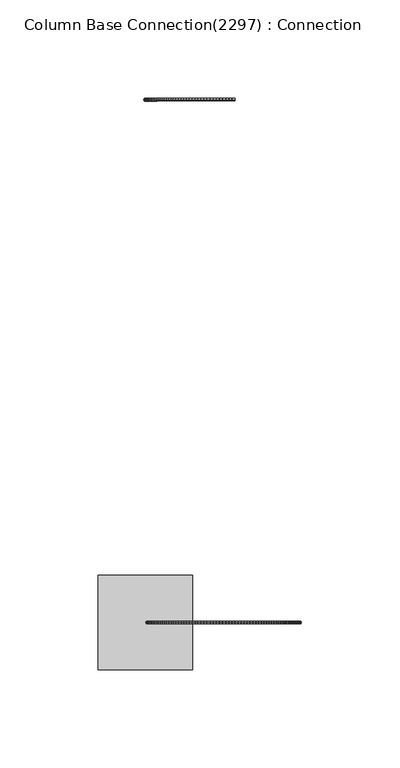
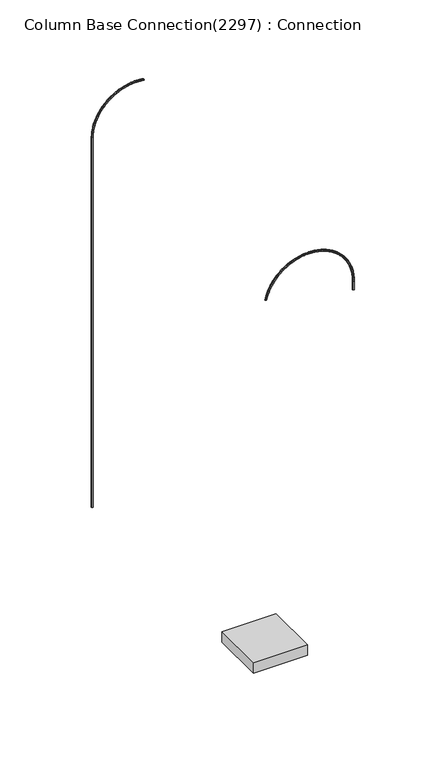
"""IFC4 building model written with IfcOpenShell, lengths in millimetres: fastener geometry, Column Base Connection(2297) : Connection."""

from ifc_helpers import new_model, si_unit, frame, origin, place, context, project, spatial, polyline, outline, extrude, source, transform, mapped, element, save


def column_base_connection_2297_connection_aaa6c23a(model_context):
    return source(origin(), model_context, "Body", "SweptSolid", [
        extrude(outline(polyline([(0.0, 0.0), (0.7999999, 0.0), (1.1999999, -0.6928203), (0.7999999, -1.3856406), (0.0, -1.3856406), (-0.4, -0.6928203), (0.0, 0.0)])), frame((184.7624412, 132.3071807, 308.5144738), z_axis=(-0.9903294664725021, 0.0, 0.13873553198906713), x_axis=(-0.13873553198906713, 0.0, -0.9903294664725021)), (0.0, 0.0, 1.0), 1.6),
        extrude(outline(polyline([(0.0, 0.0), (0.8000001, 0.0), (1.2, -0.6928203), (0.8000001, -1.3856406), (0.0, -1.3856406), (-0.3999999, -0.6928203), (0.0, 0.0)])), frame((183.1937945, 132.3071807, 308.7351845), z_axis=(-0.9950621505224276, 0.0, 0.09925379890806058), x_axis=(-0.09925379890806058, 0.0, -0.9950621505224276)), (0.0, 0.0, 1.0), 1.6),
        extrude(outline(polyline([(0.0, 0.0), (0.8000001, 0.0), (1.2, -0.6928203), (0.8000001, -1.3856406), (0.0, -1.3856406), (-0.4, -0.6928203), (0.0, 0.0)])), frame((181.6176134, 132.3071807, 308.8933567), z_axis=(-0.9982214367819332, 0.0, 0.05961512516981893), x_axis=(-0.05961512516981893, 0.0, -0.9982214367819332)), (0.0, 0.0, 1.0), 1.6),
        extrude(outline(polyline([(0.0, 0.0), (0.8, 0.0), (1.2, -0.6928203), (0.8, -1.3856406), (0.0, -1.3856406), (-0.4, -0.6928203), (0.0, 0.0)])), frame((180.03639, 132.3071807, 308.9887404), z_axis=(-0.9998023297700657, 0.0, 0.019882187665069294), x_axis=(-0.019882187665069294, 0.0, -0.9998023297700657)), (0.0, 0.0, 1.0), 1.6),
        extrude(outline(polyline([(0.0, 0.0), (0.4000001, -0.6928203), (0.0, -1.3856406), (-0.7999999, -1.3856406), (-1.1999999, -0.6928203), (-0.7999999, 0.0), (0.0, 0.0)])), frame((176.8529409, 132.3071807, 308.9893732), z_axis=(0.9998023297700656, 0.0, 0.019882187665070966), x_axis=(-0.019882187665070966, 0.0, 0.9998023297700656)), (0.0, 0.0, 1.0), 1.6),
        extrude(outline(polyline([(0.0, 0.0), (0.3999999, -0.6928203), (0.0, -1.3856406), (-0.8000001, -1.3856406), (-1.2000001, -0.6928203), (-0.8000001, 0.0), (0.0, 0.0)])), frame((175.2716672, 132.3071807, 308.8952543), z_axis=(0.9982214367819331, 0.0, 0.0596151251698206), x_axis=(-0.0596151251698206, 0.0, 0.9982214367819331)), (0.0, 0.0, 1.0), 1.6),
        extrude(outline(polyline([(0.0, 0.0), (0.3999999, -0.6928203), (0.0, -1.3856406), (-0.8000001, -1.3856406), (-1.2, -0.6928203), (-0.8000001, 0.0), (0.0, 0.0)])), frame((173.6953855, 132.3071807, 308.7383438), z_axis=(0.9950621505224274, 0.0, 0.09925379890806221), x_axis=(-0.09925379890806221, 0.0, 0.9950621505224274)), (0.0, 0.0, 1.0), 1.6),
        extrude(outline(polyline([(0.0, 0.0), (0.4, -0.6928203), (0.0, -1.3856406), (-0.7999999, -1.3856406), (-1.1999999, -0.6928203), (-0.7999999, 0.0), (0.0, 0.0)])), frame((172.1265882, 132.3071807, 308.5188898), z_axis=(0.9903294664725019, 0.0, 0.13873553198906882), x_axis=(-0.13873553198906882, 0.0, 0.9903294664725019)), (0.0, 0.0, 1.0), 1.6),
        extrude(outline(polyline([(0.0, 0.0), (0.4, -0.6928203), (0.0, -1.3856406), (-0.8, -1.3856406), (-1.2, -0.6928203), (-0.8, 0.0), (0.0, 0.0)])), frame((170.5677559, 132.3071807, 308.2372395), z_axis=(0.9840308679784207, 0.0, 0.17799789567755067), x_axis=(-0.17799789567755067, 0.0, 0.9840308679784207)), (0.0, 0.0, 1.0), 1.6),
        extrude(outline(polyline([(0.0, 0.0), (0.4, -0.6928203), (0.0, -1.3856406), (-0.8, -1.3856406), (-1.2, -0.6928203), (-0.8, 0.0), (0.0, 0.0)])), frame((169.0213535, 132.3071807, 307.8938381), z_axis=(0.9761763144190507, 0.0, 0.2169788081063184), x_axis=(-0.2169788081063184, 0.0, 0.9761763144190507)), (0.0, 0.0, 1.0), 1.6),
        extrude(outline(polyline([(0.0, 0.0), (0.4, -0.6928203), (0.0, -1.3856406), (-0.7999999, -1.3856406), (-1.1999999, -0.6928203), (-0.7999999, 0.0), (0.0, 0.0)])), frame((167.4898262, 132.3071807, 307.4892286), z_axis=(0.9667782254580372, 0.0, 0.255616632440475), x_axis=(-0.255616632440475, 0.0, 0.9667782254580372)), (0.0, 0.0, 1.0), 1.6),
        extrude(outline(polyline([(0.0, 0.0), (0.3999999, -0.6928203), (0.0, -1.3856406), (-0.8, -1.3856406), (-1.2, -0.6928203), (-0.8, 0.0), (0.0, 0.0)])), frame((165.9755955, 132.3071807, 307.0240509), z_axis=(0.9558514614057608, 0.0, 0.2938502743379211), x_axis=(-0.2938502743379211, 0.0, 0.9558514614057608)), (0.0, 0.0, 1.0), 1.6),
        extrude(outline(polyline([(0.0, 0.0), (0.4, -0.6928203), (0.0, -1.3856406), (-0.8, -1.3856406), (-1.2, -0.6928203), (-0.8, 0.0), (0.0, 0.0)])), frame((164.4810558, 132.3071807, 306.4990403), z_axis=(0.9434132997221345, 0.0, 0.33161927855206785), x_axis=(-0.33161927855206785, 0.0, 0.9434132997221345)), (0.0, 0.0, 1.0), 1.6),
        extrude(outline(polyline([(0.0, 0.0), (0.4, -0.6928203), (0.0, -1.3856406), (-0.8000001, -1.3856406), (-1.2, -0.6928203), (-0.8000001, 0.0), (0.0, 0.0)])), frame((163.0085703, 132.3071807, 305.9150272), z_axis=(0.929483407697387, 0.0, 0.36886392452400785), x_axis=(-0.36886392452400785, 0.0, 0.929483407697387)), (0.0, 0.0, 1.0), 1.6),
        extrude(outline(polyline([(0.0, 0.0), (0.4, -0.6928203), (0.0, -1.3856406), (-0.7999999, -1.3856406), (-1.2, -0.6928203), (-0.7999999, 0.0), (0.0, 0.0)])), frame((161.5604673, 132.3071807, 305.2729348), z_axis=(0.9140838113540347, 0.0, 0.4055253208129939), x_axis=(-0.4055253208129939, 0.0, 0.9140838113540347)), (0.0, 0.0, 1.0), 1.6),
        extrude(outline(polyline([(0.0, 0.0), (0.4, -0.6928203), (0.0, -1.3856406), (-0.8, -1.3856406), (-1.2, -0.6928203), (-0.8, 0.0), (0.0, 0.0)])), frame((160.1390365, 132.3071807, 304.5737786), z_axis=(0.8972388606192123, 0.0, 0.4415454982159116), x_axis=(-0.4415454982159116, 0.0, 0.8972388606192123)), (0.0, 0.0, 1.0), 1.6),
        extrude(outline(polyline([(0.0, 0.0), (0.4, -0.6928203), (0.0, -1.3856406), (-0.8, -1.3856406), (-1.2, -0.6928203), (-0.8, 0.0), (0.0, 0.0)])), frame((158.7465255, 132.3071807, 303.818664), z_axis=(0.8789751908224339, 0.0, 0.4768675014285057), x_axis=(-0.4768675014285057, 0.0, 0.8789751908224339)), (0.0, 0.0, 1.0), 1.6),
        extrude(outline(polyline([(0.0, 0.0), (0.4, -0.6928203), (0.0, -1.3856406), (-0.8, -1.3856406), (-1.2, -0.6928203), (-0.8, 0.0), (0.0, 0.0)])), frame((157.3851361, 132.3071807, 303.008785), z_axis=(0.8593216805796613, 0.0, 0.5114354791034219), x_axis=(-0.5114354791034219, 0.0, 0.8593216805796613)), (0.0, 0.0, 1.0), 1.6),
        extrude(outline(polyline([(0.0, 0.0), (0.4, -0.6928203), (0.0, -1.3856406), (-0.8, -1.3856406), (-1.2, -0.6928203), (-0.8, 0.0), (0.0, 0.0)])), frame((156.0570211, 132.3071807, 302.1454222), z_axis=(0.8383094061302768, 0.0, 0.5451947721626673), x_axis=(-0.5451947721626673, 0.0, 0.8383094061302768)), (0.0, 0.0, 1.0), 1.6),
        extrude(outline(polyline([(0.0, 0.0), (0.4, -0.6928203), (0.0, -1.3856406), (-0.8, -1.3856406), (-1.2, -0.6928203), (-0.8, 0.0), (0.0, 0.0)])), frame((154.7642803, 132.3071807, 301.2299408), z_axis=(0.8159715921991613, 0.0, 0.5780920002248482), x_axis=(-0.5780920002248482, 0.0, 0.8159715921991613)), (0.0, 0.0, 1.0), 1.6),
        extrude(outline(polyline([(0.0, 0.0), (0.4, -0.6928203), (0.0, -1.3856406), (-0.8, -1.3856406), (-1.2, -0.6928203), (-0.8, 0.0), (0.0, 0.0)])), frame((153.508958, 132.3071807, 300.2637883), z_axis=(0.7923435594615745, 0.0, 0.6100751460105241), x_axis=(-0.6100751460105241, 0.0, 0.7923435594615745)), (0.0, 0.0, 1.0), 1.6),
        extrude(outline(polyline([(0.0, 0.0), (0.4, -0.6928203), (0.0, -1.3856406), (-0.8, -1.3856406), (-1.2, -0.6928203), (-0.8, 0.0), (0.0, 0.0)])), frame((152.2930389, 132.3071807, 299.2484923), z_axis=(0.7674626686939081, 0.0, 0.6410936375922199), x_axis=(-0.6410936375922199, 0.0, 0.7674626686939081)), (0.0, 0.0, 1.0), 1.6),
        extrude(outline(polyline([(0.0, 0.0), (0.4, -0.6928203), (0.0, -1.3856406), (-0.8, -1.3856406), (-1.2, -0.6928203), (-0.8, 0.0), (0.0, 0.0)])), frame((151.1184458, 132.3071807, 298.1856584), z_axis=(0.7413682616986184, 0.0, 0.6710984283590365), x_axis=(-0.6710984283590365, 0.0, 0.7413682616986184)), (0.0, 0.0, 1.0), 1.6),
        extrude(outline(polyline([(0.0, 0.0), (0.4, -0.6928203), (0.0, -1.3856406), (-0.8, -1.3856406), (-1.2, -0.6928203), (-0.8, 0.0), (0.0, 0.0)])), frame((149.9870359, 132.3071807, 297.076967), z_axis=(0.7141015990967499, 0.0, 0.7000420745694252), x_axis=(-0.7000420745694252, 0.0, 0.7141015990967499)), (0.0, 0.0, 1.0), 1.6),
        extrude(outline(polyline([(0.0, 0.0), (0.4, -0.6928203), (0.0, -1.3856406), (-0.8000001, -1.3856406), (-1.2000001, -0.6928203), (-0.8000001, 0.0), (0.0, 0.0)])), frame((148.9005982, 132.3071807, 295.9241713), z_axis=(0.6857057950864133, 0.0, 0.727878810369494), x_axis=(-0.727878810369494, 0.0, 0.6857057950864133)), (0.0, 0.0, 1.0), 1.6),
        extrude(outline(polyline([(0.0, 0.0), (0.4, -0.6928203), (0.0, -1.3856406), (-0.8, -1.3856406), (-1.2, -0.6928203), (-0.8, 0.0), (0.0, 0.0)])), frame((147.8608506, 132.3071807, 294.7290939), z_axis=(0.6562257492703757, 0.0, 0.75456462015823), x_axis=(-0.75456462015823, 0.0, 0.6562257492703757)), (0.0, 0.0, 1.0), 1.6),
        extrude(outline(polyline([(0.0, 0.0), (0.4, -0.6928203), (0.0, -1.3856406), (-0.8000001, -1.3856406), (-1.2, -0.6928203), (-0.8000001, 0.0), (0.0, 0.0)])), frame((146.8694371, 132.3071807, 293.4936247), z_axis=(0.6257080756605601, 0.0, 0.780057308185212), x_axis=(-0.780057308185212, 0.0, 0.6257080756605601)), (0.0, 0.0, 1.0), 1.6),
        extrude(outline(polyline([(0.0, 0.0), (0.4, -0.6928203), (0.0, -1.3856406), (-0.8000001, -1.3856406), (-1.2000001, -0.6928203), (-0.8000001, 0.0), (0.0, 0.0)])), frame((145.9279254, 132.3071807, 292.2197171), z_axis=(0.5942010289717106, 0.0, 0.8043165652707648), x_axis=(-0.8043165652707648, 0.0, 0.5942010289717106)), (0.0, 0.0, 1.0), 1.6),
        extrude(outline(polyline([(0.0, 0.0), (0.3999999, -0.6928203), (0.0, -1.3856406), (-0.8, -1.3856406), (-1.2, -0.6928203), (-0.8, 0.0), (0.0, 0.0)])), frame((145.0378042, 132.3071807, 290.9093854), z_axis=(0.561754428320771, 0.0, 0.8273040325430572), x_axis=(-0.8273040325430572, 0.0, 0.561754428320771)), (0.0, 0.0, 1.0), 1.6),
        extrude(outline(polyline([(0.0, 0.0), (0.4, -0.6928203), (0.0, -1.3856406), (-0.7999999, -1.3856406), (-1.2, -0.6928203), (-0.7999999, 0.0), (0.0, 0.0)])), frame((144.200481, 132.3071807, 289.5647015), z_axis=(0.5284195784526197, 0.0, 0.8489833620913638), x_axis=(-0.8489833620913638, 0.0, 0.5284195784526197)), (0.0, 0.0, 1.0), 1.6),
        extrude(outline(polyline([(0.0, 0.0), (0.4, -0.6928203), (0.0, -1.3856406), (-0.8, -1.3856406), (-1.2, -0.6928203), (-0.8, 0.0), (0.0, 0.0)])), frame((143.4172796, 132.3071807, 288.1877917), z_axis=(0.49424918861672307, 0.0, 0.8693202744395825), x_axis=(-0.8693202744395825, 0.0, 0.49424918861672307)), (0.0, 0.0, 1.0), 1.6),
        extrude(outline(polyline([(0.0, 0.0), (0.4, -0.6928203), (0.0, -1.3856406), (-0.8, -1.3856406), (-1.2, -0.6928203), (-0.8, 0.0), (0.0, 0.0)])), frame((142.6894386, 132.3071807, 286.7808331), z_axis=(0.459297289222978, 0.0, 0.8882826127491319), x_axis=(-0.8882826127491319, 0.0, 0.459297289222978)), (0.0, 0.0, 1.0), 1.6),
        extrude(outline(polyline([(0.0, 0.0), (0.4, -0.6928203), (0.0, -1.3856406), (-0.8000001, -1.3856406), (-1.2, -0.6928203), (-0.8000001, 0.0), (0.0, 0.0)])), frame((142.0181088, 132.3071807, 285.3460505), z_axis=(0.4236191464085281, 0.0, 0.9058403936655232), x_axis=(-0.9058403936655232, 0.0, 0.4236191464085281)), (0.0, 0.0, 1.0), 1.6),
        extrude(outline(polyline([(0.0, 0.0), (0.4, -0.6928203), (0.0, -1.3856406), (-0.8, -1.3856406), (-1.2, -0.6928203), (-0.8, 0.0), (0.0, 0.0)])), frame((141.4043518, 132.3071807, 283.8857125), z_axis=(0.3872711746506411, 0.0, 0.9219658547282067), x_axis=(-0.9219658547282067, 0.0, 0.3872711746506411)), (0.0, 0.0, 1.0), 1.6),
        extrude(outline(polyline([(0.0, 0.0), (0.4, -0.6928203), (0.0, -1.3856406), (-0.8, -1.3856406), (-1.2, -0.6928203), (-0.8, 0.0), (0.0, 0.0)])), frame((140.8491379, 132.3071807, 282.4021281), z_axis=(0.3503108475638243, 0.0, 0.9366334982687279), x_axis=(-0.9366334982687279, 0.0, 0.3503108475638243)), (0.0, 0.0, 1.0), 1.6),
        extrude(outline(polyline([(0.0, 0.0), (0.4, -0.6928203), (0.0, -1.3856406), (-0.8, -1.3856406), (-1.2, -0.6928203), (-0.8, 0.0), (0.0, 0.0)])), frame((140.3533451, 132.3071807, 280.8976434), z_axis=(0.3127966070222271, 0.0, 0.9498201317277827), x_axis=(-0.9498201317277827, 0.0, 0.3127966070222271)), (0.0, 0.0, 1.0), 1.6),
        extrude(outline(polyline([(0.0, 0.0), (0.3999999, -0.6928203), (0.0, -1.3856406), (-0.8000001, -1.3856406), (-1.2, -0.6928203), (-0.8000001, 0.0), (0.0, 0.0)])), frame((139.9177573, 132.3071807, 279.374637), z_axis=(0.2747877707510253, 0.0, 0.9615049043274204), x_axis=(-0.9615049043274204, 0.0, 0.2747877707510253)), (0.0, 0.0, 1.0), 1.6),
        extrude(outline(polyline([(0.0, 0.0), (0.3999999, -0.6928203), (0.0, -1.3856406), (-0.8, -1.3856406), (-1.2, -0.6928203), (-0.8, 0.0), (0.0, 0.0)])), frame((139.5430634, 132.3071807, 277.8355174), z_axis=(0.23634443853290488, 0.0, 0.9716693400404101), x_axis=(-0.9716693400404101, 0.0, 0.23634443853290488)), (0.0, 0.0, 1.0), 1.6),
        extrude(outline(polyline([(0.0, 0.0), (0.4, -0.6928203), (0.0, -1.3856406), (-0.8, -1.3856406), (-1.2000001, -0.6928203), (-0.8, 0.0), (0.0, 0.0)])), frame((139.2298557, 132.3071807, 276.282718), z_axis=(0.1975273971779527, 0.0, 0.9802973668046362), x_axis=(-0.9802973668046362, 0.0, 0.1975273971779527)), (0.0, 0.0, 1.0), 1.6),
        extrude(outline(polyline([(0.0, 0.0), (0.4000001, -0.6928203), (0.0, -1.3856406), (-0.7999999, -1.3856406), (-1.2, -0.6928203), (-0.7999999, 0.0), (0.0, 0.0)])), frame((138.9786296, 132.3071807, 274.7186942), z_axis=(0.158398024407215, 0.0, 0.9873753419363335), x_axis=(-0.9873753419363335, 0.0, 0.158398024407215)), (0.0, 0.0, 1.0), 1.6),
        extrude(outline(polyline([(0.0, 0.0), (0.4000001, -0.6928203), (0.0, -1.3856406), (-0.7999999, -1.3856406), (-1.2, -0.6928203), (-0.7999999, 0.0), (0.0, 0.0)])), frame((138.7897822, 132.3071807, 273.1459191), z_axis=(0.1190181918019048, 0.0, 0.9928920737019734), x_axis=(-0.9928920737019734, 0.0, 0.1190181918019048)), (0.0, 0.0, 1.0), 1.6),
        extrude(outline(polyline([(0.0, 0.0), (0.4, -0.6928203), (0.0, -1.3856406), (-0.8, -1.3856406), (-1.2, -0.6928203), (-0.8, 0.0), (0.0, 0.0)])), frame((138.6636121, 132.3071807, 271.5668795), z_axis=(0.07945016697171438, 0.0, 0.9968388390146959), x_axis=(-0.9968388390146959, 0.0, 0.07945016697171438)), (0.0, 0.0, 1.0), 1.6),
        extrude(outline(polyline([(0.0, 0.0), (0.3999999, -0.6928203), (0.0, -1.3856406), (-0.8000001, -1.3856406), (-1.2, -0.6928203), (-0.8000001, 0.0), (0.0, 0.0)])), frame((138.6003189, 132.3071807, 269.9840722), z_axis=(0.03975651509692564, 0.0, 0.999209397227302), x_axis=(-0.999209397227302, 0.0, 0.03975651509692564)), (0.0, 0.0, 1.0), 1.6),
        extrude(outline(polyline([(138.6000027, 132.3071807), (138.2000027, 133.000001), (138.6000027, 133.6928213), (139.4000027, 133.6928213), (139.8000027, 133.000001), (139.4000027, 132.3071807), (138.6000027, 132.3071807)])), frame((0.0, 0.0, -78.0), z_axis=(0.0, 0.0, 1.0), x_axis=(1.0, 0.0, 0.0)), (0.0, 0.0, 1.0), 348.0),
        extrude(outline(polyline([(115.0000027, -109.000001), (163.0000027, -109.000001), (163.0000027, -157.000001), (115.0000027, -157.000001), (115.0000027, -109.000001)])), frame((0.0, 0.0, -50.0), z_axis=(0.0, 0.0, 1.0), x_axis=(1.0, 0.0, 0.0)), (0.0, 0.0, 1.0), 10.0),
        extrude(outline(polyline([(218.2575041, -133.6928213), (217.4575041, -133.6928213), (217.0575041, -133.000001), (217.4575041, -132.3071807), (218.2575041, -132.3071807), (218.6575041, -133.000001), (218.2575041, -133.6928213)])), frame((0.0, 0.0, 260.4), z_axis=(0.0, 0.0, 1.0), x_axis=(1.0, 0.0, 0.0)), (0.0, 0.0, 1.0), 8.0),
        extrude(outline(polyline([(218.2575041, -133.6928213), (217.4575041, -133.6928213), (217.0575041, -133.000001), (217.4575041, -132.3071807), (218.2575041, -132.3071807), (218.6575041, -133.000001), (218.2575041, -133.6928213)])), frame((0.0, 0.0, 268.3681696), z_axis=(0.0, 0.0, 1.0), x_axis=(1.0, 0.0, 0.0)), (0.0, 0.0, 1.0), 1.6),
        extrude(outline(polyline([(0.0, 0.0), (0.8000001, 0.0), (1.2, -0.6928203), (0.8000001, -1.3856406), (0.0, -1.3856406), (-0.3999999, -0.6928203), (0.0, 0.0)])), frame((218.2584534, -133.6928213, 269.952267), z_axis=(-0.03975651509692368, 0.0, 0.999209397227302), x_axis=(-0.999209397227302, 0.0, -0.03975651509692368)), (0.0, 0.0, 1.0), 1.6),
        extrude(outline(polyline([(0.0, 0.0), (0.7999999, 0.0), (1.2, -0.6928203), (0.7999999, -1.3856406), (0.0, -1.3856406), (-0.4000001, -0.6928203), (0.0, 0.0)])), frame((218.1964236, -133.6928213, 271.5351498), z_axis=(-0.07945016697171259, 0.0, 0.996838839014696), x_axis=(-0.996838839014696, 0.0, -0.07945016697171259)), (0.0, 0.0, 1.0), 1.6),
        extrude(outline(polyline([(0.0, 0.0), (0.8, 0.0), (1.2, -0.6928203), (0.8, -1.3856406), (0.0, -1.3856406), (-0.4, -0.6928203), (0.0, 0.0)])), frame((218.0715131, -133.6928213, 273.114315), z_axis=(-0.11901819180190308, 0.0, 0.9928920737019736), x_axis=(-0.9928920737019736, 0.0, -0.11901819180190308)), (0.0, 0.0, 1.0), 1.6),
        extrude(outline(polyline([(0.0, 0.0), (0.8, 0.0), (1.2, -0.6928203), (0.8, -1.3856406), (0.0, -1.3856406), (-0.4000001, -0.6928203), (0.0, 0.0)])), frame((217.8839191, -133.6928213, 274.6872657), z_axis=(-0.15839802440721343, 0.0, 0.9873753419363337), x_axis=(-0.9873753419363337, 0.0, -0.15839802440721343)), (0.0, 0.0, 1.0), 1.6),
        extrude(outline(polyline([(0.0, 0.0), (0.8, 0.0), (1.2000001, -0.6928203), (0.8, -1.3856406), (0.0, -1.3856406), (-0.3999999, -0.6928203), (0.0, 0.0)])), frame((217.6339385, -133.6928213, 276.2515148), z_axis=(-0.19752739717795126, 0.0, 0.9802973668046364), x_axis=(-0.9802973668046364, 0.0, -0.19752739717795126)), (0.0, 0.0, 1.0), 1.6),
        extrude(outline(polyline([(0.0, 0.0), (0.8, 0.0), (1.2000001, -0.6928203), (0.8, -1.3856406), (0.0, -1.3856406), (-0.3999999, -0.6928203), (0.0, 0.0)])), frame((217.3219664, -133.6928213, 277.8045888), z_axis=(-0.23634443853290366, 0.0, 0.9716693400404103), x_axis=(-0.9716693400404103, 0.0, -0.23634443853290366)), (0.0, 0.0, 1.0), 1.6),
        extrude(outline(polyline([(0.0, 0.0), (0.8, 0.0), (1.2, -0.6928203), (0.8, -1.3856406), (0.0, -1.3856406), (-0.3999999, -0.6928203), (0.0, 0.0)])), frame((216.9484961, -133.6928213, 279.344032), z_axis=(-0.2747877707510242, 0.0, 0.9615049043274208), x_axis=(-0.9615049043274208, 0.0, -0.2747877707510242)), (0.0, 0.0, 1.0), 1.6),
        extrude(outline(polyline([(0.0, 0.0), (0.8, 0.0), (1.2, -0.6928203), (0.8, -1.3856406), (0.0, -1.3856406), (-0.4, -0.6928203), (0.0, 0.0)])), frame((216.5141182, -133.6928213, 280.8674102), z_axis=(-0.31279660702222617, 0.0, 0.949820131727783), x_axis=(-0.949820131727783, 0.0, -0.31279660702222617)), (0.0, 0.0, 1.0), 1.6),
        extrude(outline(polyline([(0.0, 0.0), (0.8, 0.0), (1.2, -0.6928203), (0.8, -1.3856406), (0.0, -1.3856406), (-0.4, -0.6928203), (0.0, 0.0)])), frame((216.0195195, -133.6928213, 282.3723147), z_axis=(-0.3503108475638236, 0.0, 0.9366334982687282), x_axis=(-0.9366334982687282, 0.0, -0.3503108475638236)), (0.0, 0.0, 1.0), 1.6),
        extrude(outline(polyline([(0.0, 0.0), (0.7999999, 0.0), (1.2, -0.6928203), (0.7999999, -1.3856406), (0.0, -1.3856406), (-0.4000001, -0.6928203), (0.0, 0.0)])), frame((215.465482, -133.6928213, 283.8563659), z_axis=(-0.38727117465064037, 0.0, 0.921965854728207), x_axis=(-0.921965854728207, 0.0, -0.38727117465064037)), (0.0, 0.0, 1.0), 1.6),
        extrude(outline(polyline([(0.0, 0.0), (0.8, 0.0), (1.1999999, -0.6928203), (0.8, -1.3856406), (0.0, -1.3856406), (-0.4, -0.6928203), (0.0, 0.0)])), frame((214.8528819, -133.6928213, 285.3172173), z_axis=(-0.4236191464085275, 0.0, 0.9058403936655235), x_axis=(-0.9058403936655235, 0.0, -0.4236191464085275)), (0.0, 0.0, 1.0), 1.6),
        extrude(outline(polyline([(0.0, 0.0), (0.8, 0.0), (1.2, -0.6928203), (0.8, -1.3856406), (0.0, -1.3856406), (-0.4, -0.6928203), (0.0, 0.0)])), frame((214.1826878, -133.6928213, 286.7525588), z_axis=(-0.45929728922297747, 0.0, 0.8882826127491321), x_axis=(-0.8882826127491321, 0.0, -0.45929728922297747)), (0.0, 0.0, 1.0), 1.6),
        extrude(outline(polyline([(0.0, 0.0), (0.8, 0.0), (1.2, -0.6928203), (0.8, -1.3856406), (0.0, -1.3856406), (-0.4, -0.6928203), (0.0, 0.0)])), frame((213.4559593, -133.6928213, 288.1601209), z_axis=(-0.4942491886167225, 0.0, 0.8693202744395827), x_axis=(-0.8693202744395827, 0.0, -0.4942491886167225)), (0.0, 0.0, 1.0), 1.6),
        extrude(outline(polyline([(0.0, 0.0), (0.8, 0.0), (1.2000001, -0.6928203), (0.8, -1.3856406), (0.0, -1.3856406), (-0.3999999, -0.6928203), (0.0, 0.0)])), frame((212.6738457, -133.6928213, 289.5376781), z_axis=(-0.5284195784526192, 0.0, 0.848983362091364), x_axis=(-0.848983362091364, 0.0, -0.5284195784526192)), (0.0, 0.0, 1.0), 1.6),
        extrude(outline(polyline([(0.0, 0.0), (0.8000001, 0.0), (1.2, -0.6928203), (0.8000001, -1.3856406), (0.0, -1.3856406), (-0.3999999, -0.6928203), (0.0, 0.0)])), frame((211.8375835, -133.6928213, 290.883052), z_axis=(-0.5617544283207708, 0.0, 0.8273040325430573), x_axis=(-0.8273040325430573, 0.0, -0.5617544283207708)), (0.0, 0.0, 1.0), 1.6),
        extrude(outline(polyline([(0.0, 0.0), (0.8, 0.0), (1.2, -0.6928203), (0.8, -1.3856406), (0.0, -1.3856406), (-0.4000001, -0.6928203), (0.0, 0.0)])), frame((210.948495, -133.6928213, 292.1941154), z_axis=(-0.5942010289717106, 0.0, 0.8043165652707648), x_axis=(-0.8043165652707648, 0.0, -0.5942010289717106)), (0.0, 0.0, 1.0), 1.6),
        extrude(outline(polyline([(0.0, 0.0), (0.8, 0.0), (1.2, -0.6928203), (0.8, -1.3856406), (0.0, -1.3856406), (-0.4, -0.6928203), (0.0, 0.0)])), frame((210.0079862, -133.6928213, 293.4687952), z_axis=(-0.6257080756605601, 0.0, 0.780057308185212), x_axis=(-0.780057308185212, 0.0, -0.6257080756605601)), (0.0, 0.0, 1.0), 1.6),
        extrude(outline(polyline([(0.0, 0.0), (0.8, 0.0), (1.2, -0.6928203), (0.8, -1.3856406), (0.0, -1.3856406), (-0.4, -0.6928203), (0.0, 0.0)])), frame((209.0175441, -133.6928213, 294.7050759), z_axis=(-0.6562257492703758, 0.0, 0.75456462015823), x_axis=(-0.75456462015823, 0.0, -0.6562257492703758)), (0.0, 0.0, 1.0), 1.6),
        extrude(outline(polyline([(0.0, 0.0), (0.8, 0.0), (1.2, -0.6928203), (0.8, -1.3856406), (0.0, -1.3856406), (-0.4, -0.6928203), (0.0, 0.0)])), frame((207.9787349, -133.6928213, 295.9010026), z_axis=(-0.6857057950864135, 0.0, 0.7278788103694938), x_axis=(-0.7278788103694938, 0.0, -0.6857057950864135)), (0.0, 0.0, 1.0), 1.6),
        extrude(outline(polyline([(0.0, 0.0), (0.8, 0.0), (1.2, -0.6928203), (0.8, -1.3856406), (0.0, -1.3856406), (-0.4000001, -0.6928203), (0.0, 0.0)])), frame((206.893201, -133.6928213, 297.0546844), z_axis=(-0.7141015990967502, 0.0, 0.7000420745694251), x_axis=(-0.7000420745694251, 0.0, -0.7141015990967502)), (0.0, 0.0, 1.0), 1.6),
        extrude(outline(polyline([(0.0, 0.0), (0.8, 0.0), (1.2, -0.6928203), (0.8, -1.3856406), (0.0, -1.3856406), (-0.4, -0.6928203), (0.0, 0.0)])), frame((205.762659, -133.6928213, 298.1642971), z_axis=(-0.7413682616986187, 0.0, 0.6710984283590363), x_axis=(-0.6710984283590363, 0.0, -0.7413682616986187)), (0.0, 0.0, 1.0), 1.6),
        extrude(outline(polyline([(0.0, 0.0), (0.8, 0.0), (1.2, -0.6928203), (0.8, -1.3856406), (0.0, -1.3856406), (-0.4000001, -0.6928203), (0.0, 0.0)])), frame((204.5888965, -133.6928213, 299.2280861), z_axis=(-0.7674626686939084, 0.0, 0.6410936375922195), x_axis=(-0.6410936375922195, 0.0, -0.7674626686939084)), (0.0, 0.0, 1.0), 1.6),
        extrude(outline(polyline([(0.0, 0.0), (0.8, 0.0), (1.2, -0.6928203), (0.8, -1.3856406), (0.0, -1.3856406), (-0.4, -0.6928203), (0.0, 0.0)])), frame((203.3737695, -133.6928213, 300.2443693), z_axis=(-0.792343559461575, 0.0, 0.6100751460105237), x_axis=(-0.6100751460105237, 0.0, -0.792343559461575)), (0.0, 0.0, 1.0), 1.6),
        extrude(outline(polyline([(0.0, 0.0), (0.8, 0.0), (1.2, -0.6928203), (0.8, -1.3856406), (0.0, -1.3856406), (-0.4, -0.6928203), (0.0, 0.0)])), frame((202.1191992, -133.6928213, 301.2115399), z_axis=(-0.8159715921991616, 0.0, 0.5780920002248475), x_axis=(-0.5780920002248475, 0.0, -0.8159715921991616)), (0.0, 0.0, 1.0), 1.6),
        extrude(outline(polyline([(0.0, 0.0), (0.8, 0.0), (1.2000001, -0.6928203), (0.8, -1.3856406), (0.0, -1.3856406), (-0.3999999, -0.6928203), (0.0, 0.0)])), frame((200.8271695, -133.6928213, 302.1280685), z_axis=(-0.8383094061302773, 0.0, 0.5451947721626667), x_axis=(-0.5451947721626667, 0.0, -0.8383094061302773)), (0.0, 0.0, 1.0), 1.6),
        extrude(outline(polyline([(0.0, 0.0), (0.8, 0.0), (1.1999999, -0.6928203), (0.8, -1.3856406), (0.0, -1.3856406), (-0.4, -0.6928203), (0.0, 0.0)])), frame((199.4997232, -133.6928213, 302.9925058), z_axis=(-0.8593216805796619, 0.0, 0.511435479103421), x_axis=(-0.511435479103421, 0.0, -0.8593216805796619)), (0.0, 0.0, 1.0), 1.6),
        extrude(outline(polyline([(0.0, 0.0), (0.8, 0.0), (1.2, -0.6928203), (0.8, -1.3856406), (0.0, -1.3856406), (-0.4, -0.6928203), (0.0, 0.0)])), frame((198.1389595, -133.6928213, 303.8034851), z_axis=(-0.8789751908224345, 0.0, 0.47686750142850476), x_axis=(-0.47686750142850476, 0.0, -0.8789751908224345)), (0.0, 0.0, 1.0), 1.6),
        extrude(outline(polyline([(0.0, 0.0), (0.7999999, 0.0), (1.2, -0.6928203), (0.7999999, -1.3856406), (0.0, -1.3856406), (-0.4000001, -0.6928203), (0.0, 0.0)])), frame((196.7470298, -133.6928213, 304.559724), z_axis=(-0.897238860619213, 0.0, 0.44154549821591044), x_axis=(-0.44154549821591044, 0.0, -0.897238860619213)), (0.0, 0.0, 1.0), 1.6),
        extrude(outline(polyline([(0.0, 0.0), (0.8, 0.0), (1.2, -0.6928203), (0.8, -1.3856406), (0.0, -1.3856406), (-0.4, -0.6928203), (0.0, 0.0)])), frame((195.3261352, -133.6928213, 305.2600268), z_axis=(-0.9140838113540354, 0.0, 0.4055253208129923), x_axis=(-0.4055253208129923, 0.0, -0.9140838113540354)), (0.0, 0.0, 1.0), 1.6),
        extrude(outline(polyline([(0.0, 0.0), (0.8000001, 0.0), (1.2, -0.6928203), (0.8000001, -1.3856406), (0.0, -1.3856406), (-0.4, -0.6928203), (0.0, 0.0)])), frame((193.8785223, -133.6928213, 305.9032861), z_axis=(-0.9294834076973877, 0.0, 0.36886392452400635), x_axis=(-0.36886392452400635, 0.0, -0.9294834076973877)), (0.0, 0.0, 1.0), 1.6),
        extrude(outline(polyline([(0.0, 0.0), (0.8, 0.0), (1.1999999, -0.6928203), (0.8, -1.3856406), (0.0, -1.3856406), (-0.4000001, -0.6928203), (0.0, 0.0)])), frame((192.4064802, -133.6928213, 306.4884847), z_axis=(-0.9434132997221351, 0.0, 0.3316192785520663), x_axis=(-0.3316192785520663, 0.0, -0.9434132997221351)), (0.0, 0.0, 1.0), 1.6),
        extrude(outline(polyline([(0.0, 0.0), (0.8000001, 0.0), (1.2000001, -0.6928203), (0.8000001, -1.3856406), (0.0, -1.3856406), (-0.4, -0.6928203), (0.0, 0.0)])), frame((190.9123365, -133.6928213, 307.0146975), z_axis=(-0.9558514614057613, 0.0, 0.29385027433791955), x_axis=(-0.29385027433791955, 0.0, -0.9558514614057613)), (0.0, 0.0, 1.0), 1.6),
        extrude(outline(polyline([(0.0, 0.0), (0.8, 0.0), (1.2, -0.6928203), (0.8, -1.3856406), (0.0, -1.3856406), (-0.3999999, -0.6928203), (0.0, 0.0)])), frame((189.3984536, -133.6928213, 307.4810923), z_axis=(-0.9667782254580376, 0.0, 0.2556166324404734), x_axis=(-0.2556166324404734, 0.0, -0.9667782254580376)), (0.0, 0.0, 1.0), 1.6),
        extrude(outline(polyline([(0.0, 0.0), (0.8000001, 0.0), (1.2, -0.6928203), (0.8000001, -1.3856406), (0.0, -1.3856406), (-0.4, -0.6928203), (0.0, 0.0)])), frame((187.8672254, -133.6928213, 307.8869316), z_axis=(-0.9761763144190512, 0.0, 0.21697880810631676), x_axis=(-0.21697880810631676, 0.0, -0.9761763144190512)), (0.0, 0.0, 1.0), 1.6),
        extrude(outline(polyline([(0.0, 0.0), (0.8, 0.0), (1.2000001, -0.6928203), (0.8, -1.3856406), (0.0, -1.3856406), (-0.3999999, -0.6928203), (0.0, 0.0)])), frame((186.321073, -133.6928213, 308.2315738), z_axis=(-0.9840308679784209, 0.0, 0.17799789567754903), x_axis=(-0.17799789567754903, 0.0, -0.9840308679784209)), (0.0, 0.0, 1.0), 1.6),
        extrude(outline(polyline([(0.0, 0.0), (0.7999999, 0.0), (1.1999999, -0.6928203), (0.7999999, -1.3856406), (0.0, -1.3856406), (-0.4, -0.6928203), (0.0, 0.0)])), frame((184.7624412, -133.6928213, 308.5144738), z_axis=(-0.9903294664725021, 0.0, 0.13873553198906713), x_axis=(-0.13873553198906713, 0.0, -0.9903294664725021)), (0.0, 0.0, 1.0), 1.6),
        extrude(outline(polyline([(0.0, 0.0), (0.8000001, 0.0), (1.2, -0.6928203), (0.8000001, -1.3856406), (0.0, -1.3856406), (-0.3999999, -0.6928203), (0.0, 0.0)])), frame((183.1937945, -133.6928213, 308.7351845), z_axis=(-0.9950621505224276, 0.0, 0.09925379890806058), x_axis=(-0.09925379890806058, 0.0, -0.9950621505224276)), (0.0, 0.0, 1.0), 1.6),
        extrude(outline(polyline([(0.0, 0.0), (0.8000001, 0.0), (1.2, -0.6928203), (0.8000001, -1.3856406), (0.0, -1.3856406), (-0.4, -0.6928203), (0.0, 0.0)])), frame((181.6176134, -133.6928213, 308.8933567), z_axis=(-0.9982214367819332, 0.0, 0.05961512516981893), x_axis=(-0.05961512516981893, 0.0, -0.9982214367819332)), (0.0, 0.0, 1.0), 1.6),
        extrude(outline(polyline([(0.0, 0.0), (0.8, 0.0), (1.2, -0.6928203), (0.8, -1.3856406), (0.0, -1.3856406), (-0.4, -0.6928203), (0.0, 0.0)])), frame((180.03639, -133.6928213, 308.9887404), z_axis=(-0.9998023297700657, 0.0, 0.019882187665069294), x_axis=(-0.019882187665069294, 0.0, -0.9998023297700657)), (0.0, 0.0, 1.0), 1.6),
        extrude(outline(polyline([(0.0, 0.0), (0.4000001, -0.6928203), (0.0, -1.3856406), (-0.7999999, -1.3856406), (-1.1999999, -0.6928203), (-0.7999999, 0.0), (0.0, 0.0)])), frame((176.8529409, -133.6928213, 308.9893732), z_axis=(0.9998023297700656, 0.0, 0.019882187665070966), x_axis=(-0.019882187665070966, 0.0, 0.9998023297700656)), (0.0, 0.0, 1.0), 1.6),
        extrude(outline(polyline([(0.0, 0.0), (0.3999999, -0.6928203), (0.0, -1.3856406), (-0.8000001, -1.3856406), (-1.2000001, -0.6928203), (-0.8000001, 0.0), (0.0, 0.0)])), frame((175.2716672, -133.6928213, 308.8952543), z_axis=(0.9982214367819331, 0.0, 0.0596151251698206), x_axis=(-0.0596151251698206, 0.0, 0.9982214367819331)), (0.0, 0.0, 1.0), 1.6),
        extrude(outline(polyline([(0.0, 0.0), (0.3999999, -0.6928203), (0.0, -1.3856406), (-0.8000001, -1.3856406), (-1.2, -0.6928203), (-0.8000001, 0.0), (0.0, 0.0)])), frame((173.6953855, -133.6928213, 308.7383438), z_axis=(0.9950621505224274, 0.0, 0.09925379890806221), x_axis=(-0.09925379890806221, 0.0, 0.9950621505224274)), (0.0, 0.0, 1.0), 1.6),
        extrude(outline(polyline([(0.0, 0.0), (0.4, -0.6928203), (0.0, -1.3856406), (-0.7999999, -1.3856406), (-1.1999999, -0.6928203), (-0.7999999, 0.0), (0.0, 0.0)])), frame((172.1265882, -133.6928213, 308.5188898), z_axis=(0.9903294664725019, 0.0, 0.13873553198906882), x_axis=(-0.13873553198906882, 0.0, 0.9903294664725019)), (0.0, 0.0, 1.0), 1.6),
        extrude(outline(polyline([(0.0, 0.0), (0.4, -0.6928203), (0.0, -1.3856406), (-0.8, -1.3856406), (-1.2, -0.6928203), (-0.8, 0.0), (0.0, 0.0)])), frame((170.5677559, -133.6928213, 308.2372395), z_axis=(0.9840308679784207, 0.0, 0.17799789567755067), x_axis=(-0.17799789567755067, 0.0, 0.9840308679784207)), (0.0, 0.0, 1.0), 1.6),
        extrude(outline(polyline([(0.0, 0.0), (0.4, -0.6928203), (0.0, -1.3856406), (-0.8, -1.3856406), (-1.2, -0.6928203), (-0.8, 0.0), (0.0, 0.0)])), frame((169.0213535, -133.6928213, 307.8938381), z_axis=(0.9761763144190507, 0.0, 0.2169788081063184), x_axis=(-0.2169788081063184, 0.0, 0.9761763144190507)), (0.0, 0.0, 1.0), 1.6),
        extrude(outline(polyline([(0.0, 0.0), (0.4, -0.6928203), (0.0, -1.3856406), (-0.7999999, -1.3856406), (-1.1999999, -0.6928203), (-0.7999999, 0.0), (0.0, 0.0)])), frame((167.4898262, -133.6928213, 307.4892286), z_axis=(0.9667782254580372, 0.0, 0.255616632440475), x_axis=(-0.255616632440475, 0.0, 0.9667782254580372)), (0.0, 0.0, 1.0), 1.6),
        extrude(outline(polyline([(0.0, 0.0), (0.3999999, -0.6928203), (0.0, -1.3856406), (-0.8, -1.3856406), (-1.2, -0.6928203), (-0.8, 0.0), (0.0, 0.0)])), frame((165.9755955, -133.6928213, 307.0240509), z_axis=(0.9558514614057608, 0.0, 0.2938502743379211), x_axis=(-0.2938502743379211, 0.0, 0.9558514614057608)), (0.0, 0.0, 1.0), 1.6),
        extrude(outline(polyline([(0.0, 0.0), (0.4, -0.6928203), (0.0, -1.3856406), (-0.8, -1.3856406), (-1.2, -0.6928203), (-0.8, 0.0), (0.0, 0.0)])), frame((164.4810558, -133.6928213, 306.4990403), z_axis=(0.9434132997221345, 0.0, 0.33161927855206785), x_axis=(-0.33161927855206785, 0.0, 0.9434132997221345)), (0.0, 0.0, 1.0), 1.6),
        extrude(outline(polyline([(0.0, 0.0), (0.4, -0.6928203), (0.0, -1.3856406), (-0.8000001, -1.3856406), (-1.2, -0.6928203), (-0.8000001, 0.0), (0.0, 0.0)])), frame((163.0085703, -133.6928213, 305.9150272), z_axis=(0.929483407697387, 0.0, 0.36886392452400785), x_axis=(-0.36886392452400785, 0.0, 0.929483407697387)), (0.0, 0.0, 1.0), 1.6),
        extrude(outline(polyline([(0.0, 0.0), (0.4, -0.6928203), (0.0, -1.3856406), (-0.7999999, -1.3856406), (-1.2, -0.6928203), (-0.7999999, 0.0), (0.0, 0.0)])), frame((161.5604673, -133.6928213, 305.2729348), z_axis=(0.9140838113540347, 0.0, 0.4055253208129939), x_axis=(-0.4055253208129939, 0.0, 0.9140838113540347)), (0.0, 0.0, 1.0), 1.6),
        extrude(outline(polyline([(0.0, 0.0), (0.4, -0.6928203), (0.0, -1.3856406), (-0.8, -1.3856406), (-1.2, -0.6928203), (-0.8, 0.0), (0.0, 0.0)])), frame((160.1390365, -133.6928213, 304.5737786), z_axis=(0.8972388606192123, 0.0, 0.4415454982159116), x_axis=(-0.4415454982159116, 0.0, 0.8972388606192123)), (0.0, 0.0, 1.0), 1.6),
        extrude(outline(polyline([(0.0, 0.0), (0.4, -0.6928203), (0.0, -1.3856406), (-0.8, -1.3856406), (-1.2, -0.6928203), (-0.8, 0.0), (0.0, 0.0)])), frame((158.7465255, -133.6928213, 303.818664), z_axis=(0.8789751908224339, 0.0, 0.4768675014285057), x_axis=(-0.4768675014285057, 0.0, 0.8789751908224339)), (0.0, 0.0, 1.0), 1.6),
        extrude(outline(polyline([(0.0, 0.0), (0.4, -0.6928203), (0.0, -1.3856406), (-0.8, -1.3856406), (-1.2, -0.6928203), (-0.8, 0.0), (0.0, 0.0)])), frame((157.3851361, -133.6928213, 303.008785), z_axis=(0.8593216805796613, 0.0, 0.5114354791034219), x_axis=(-0.5114354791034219, 0.0, 0.8593216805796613)), (0.0, 0.0, 1.0), 1.6),
        extrude(outline(polyline([(0.0, 0.0), (0.4, -0.6928203), (0.0, -1.3856406), (-0.8, -1.3856406), (-1.2, -0.6928203), (-0.8, 0.0), (0.0, 0.0)])), frame((156.0570211, -133.6928213, 302.1454222), z_axis=(0.8383094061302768, 0.0, 0.5451947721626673), x_axis=(-0.5451947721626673, 0.0, 0.8383094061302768)), (0.0, 0.0, 1.0), 1.6),
        extrude(outline(polyline([(0.0, 0.0), (0.4, -0.6928203), (0.0, -1.3856406), (-0.8, -1.3856406), (-1.2, -0.6928203), (-0.8, 0.0), (0.0, 0.0)])), frame((154.7642803, -133.6928213, 301.2299408), z_axis=(0.8159715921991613, 0.0, 0.5780920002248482), x_axis=(-0.5780920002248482, 0.0, 0.8159715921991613)), (0.0, 0.0, 1.0), 1.6),
        extrude(outline(polyline([(0.0, 0.0), (0.4, -0.6928203), (0.0, -1.3856406), (-0.8, -1.3856406), (-1.2, -0.6928203), (-0.8, 0.0), (0.0, 0.0)])), frame((153.508958, -133.6928213, 300.2637883), z_axis=(0.7923435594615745, 0.0, 0.6100751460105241), x_axis=(-0.6100751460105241, 0.0, 0.7923435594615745)), (0.0, 0.0, 1.0), 1.6),
        extrude(outline(polyline([(0.0, 0.0), (0.4, -0.6928203), (0.0, -1.3856406), (-0.8, -1.3856406), (-1.2, -0.6928203), (-0.8, 0.0), (0.0, 0.0)])), frame((152.2930389, -133.6928213, 299.2484923), z_axis=(0.7674626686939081, 0.0, 0.6410936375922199), x_axis=(-0.6410936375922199, 0.0, 0.7674626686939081)), (0.0, 0.0, 1.0), 1.6),
        extrude(outline(polyline([(0.0, 0.0), (0.4, -0.6928203), (0.0, -1.3856406), (-0.8, -1.3856406), (-1.2, -0.6928203), (-0.8, 0.0), (0.0, 0.0)])), frame((151.1184458, -133.6928213, 298.1856584), z_axis=(0.7413682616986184, 0.0, 0.6710984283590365), x_axis=(-0.6710984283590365, 0.0, 0.7413682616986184)), (0.0, 0.0, 1.0), 1.6),
        extrude(outline(polyline([(0.0, 0.0), (0.4, -0.6928203), (0.0, -1.3856406), (-0.8, -1.3856406), (-1.2, -0.6928203), (-0.8, 0.0), (0.0, 0.0)])), frame((149.9870359, -133.6928213, 297.076967), z_axis=(0.7141015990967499, 0.0, 0.7000420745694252), x_axis=(-0.7000420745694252, 0.0, 0.7141015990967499)), (0.0, 0.0, 1.0), 1.6),
        extrude(outline(polyline([(0.0, 0.0), (0.4, -0.6928203), (0.0, -1.3856406), (-0.8000001, -1.3856406), (-1.2000001, -0.6928203), (-0.8000001, 0.0), (0.0, 0.0)])), frame((148.9005982, -133.6928213, 295.9241713), z_axis=(0.6857057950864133, 0.0, 0.727878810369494), x_axis=(-0.727878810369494, 0.0, 0.6857057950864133)), (0.0, 0.0, 1.0), 1.6),
        extrude(outline(polyline([(0.0, 0.0), (0.4, -0.6928203), (0.0, -1.3856406), (-0.8, -1.3856406), (-1.2, -0.6928203), (-0.8, 0.0), (0.0, 0.0)])), frame((147.8608506, -133.6928213, 294.7290939), z_axis=(0.6562257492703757, 0.0, 0.75456462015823), x_axis=(-0.75456462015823, 0.0, 0.6562257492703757)), (0.0, 0.0, 1.0), 1.6),
        extrude(outline(polyline([(0.0, 0.0), (0.4, -0.6928203), (0.0, -1.3856406), (-0.8000001, -1.3856406), (-1.2, -0.6928203), (-0.8000001, 0.0), (0.0, 0.0)])), frame((146.8694371, -133.6928213, 293.4936247), z_axis=(0.6257080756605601, 0.0, 0.780057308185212), x_axis=(-0.780057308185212, 0.0, 0.6257080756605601)), (0.0, 0.0, 1.0), 1.6),
        extrude(outline(polyline([(0.0, 0.0), (0.4, -0.6928203), (0.0, -1.3856406), (-0.8000001, -1.3856406), (-1.2000001, -0.6928203), (-0.8000001, 0.0), (0.0, 0.0)])), frame((145.9279254, -133.6928213, 292.2197171), z_axis=(0.5942010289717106, 0.0, 0.8043165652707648), x_axis=(-0.8043165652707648, 0.0, 0.5942010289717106)), (0.0, 0.0, 1.0), 1.6),
        extrude(outline(polyline([(0.0, 0.0), (0.3999999, -0.6928203), (0.0, -1.3856406), (-0.8, -1.3856406), (-1.2, -0.6928203), (-0.8, 0.0), (0.0, 0.0)])), frame((145.0378042, -133.6928213, 290.9093854), z_axis=(0.561754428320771, 0.0, 0.8273040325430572), x_axis=(-0.8273040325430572, 0.0, 0.561754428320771)), (0.0, 0.0, 1.0), 1.6),
        extrude(outline(polyline([(0.0, 0.0), (0.4, -0.6928203), (0.0, -1.3856406), (-0.7999999, -1.3856406), (-1.2, -0.6928203), (-0.7999999, 0.0), (0.0, 0.0)])), frame((144.200481, -133.6928213, 289.5647015), z_axis=(0.5284195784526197, 0.0, 0.8489833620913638), x_axis=(-0.8489833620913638, 0.0, 0.5284195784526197)), (0.0, 0.0, 1.0), 1.6),
        extrude(outline(polyline([(0.0, 0.0), (0.4, -0.6928203), (0.0, -1.3856406), (-0.8, -1.3856406), (-1.2, -0.6928203), (-0.8, 0.0), (0.0, 0.0)])), frame((143.4172796, -133.6928213, 288.1877917), z_axis=(0.49424918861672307, 0.0, 0.8693202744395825), x_axis=(-0.8693202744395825, 0.0, 0.49424918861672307)), (0.0, 0.0, 1.0), 1.6),
        extrude(outline(polyline([(0.0, 0.0), (0.4, -0.6928203), (0.0, -1.3856406), (-0.8, -1.3856406), (-1.2, -0.6928203), (-0.8, 0.0), (0.0, 0.0)])), frame((142.6894386, -133.6928213, 286.7808331), z_axis=(0.459297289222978, 0.0, 0.8882826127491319), x_axis=(-0.8882826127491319, 0.0, 0.459297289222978)), (0.0, 0.0, 1.0), 1.6),
        extrude(outline(polyline([(0.0, 0.0), (0.4, -0.6928203), (0.0, -1.3856406), (-0.8000001, -1.3856406), (-1.2, -0.6928203), (-0.8000001, 0.0), (0.0, 0.0)])), frame((142.0181088, -133.6928213, 285.3460505), z_axis=(0.4236191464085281, 0.0, 0.9058403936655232), x_axis=(-0.9058403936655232, 0.0, 0.4236191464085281)), (0.0, 0.0, 1.0), 1.6),
        extrude(outline(polyline([(0.0, 0.0), (0.4, -0.6928203), (0.0, -1.3856406), (-0.8, -1.3856406), (-1.2, -0.6928203), (-0.8, 0.0), (0.0, 0.0)])), frame((141.4043518, -133.6928213, 283.8857125), z_axis=(0.3872711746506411, 0.0, 0.9219658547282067), x_axis=(-0.9219658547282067, 0.0, 0.3872711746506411)), (0.0, 0.0, 1.0), 1.6),
        extrude(outline(polyline([(0.0, 0.0), (0.4, -0.6928203), (0.0, -1.3856406), (-0.8, -1.3856406), (-1.2, -0.6928203), (-0.8, 0.0), (0.0, 0.0)])), frame((140.8491379, -133.6928213, 282.4021281), z_axis=(0.3503108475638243, 0.0, 0.9366334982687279), x_axis=(-0.9366334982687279, 0.0, 0.3503108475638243)), (0.0, 0.0, 1.0), 1.6),
        extrude(outline(polyline([(0.0, 0.0), (0.4, -0.6928203), (0.0, -1.3856406), (-0.8, -1.3856406), (-1.2, -0.6928203), (-0.8, 0.0), (0.0, 0.0)])), frame((140.3533451, -133.6928213, 280.8976434), z_axis=(0.3127966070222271, 0.0, 0.9498201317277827), x_axis=(-0.9498201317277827, 0.0, 0.3127966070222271)), (0.0, 0.0, 1.0), 1.6),
        extrude(outline(polyline([(0.0, 0.0), (0.3999999, -0.6928203), (0.0, -1.3856406), (-0.8000001, -1.3856406), (-1.2, -0.6928203), (-0.8000001, 0.0), (0.0, 0.0)])), frame((139.9177573, -133.6928213, 279.374637), z_axis=(0.2747877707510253, 0.0, 0.9615049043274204), x_axis=(-0.9615049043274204, 0.0, 0.2747877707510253)), (0.0, 0.0, 1.0), 1.6),
        extrude(outline(polyline([(0.0, 0.0), (0.3999999, -0.6928203), (0.0, -1.3856406), (-0.8, -1.3856406), (-1.2, -0.6928203), (-0.8, 0.0), (0.0, 0.0)])), frame((139.5430634, -133.6928213, 277.8355174), z_axis=(0.23634443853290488, 0.0, 0.9716693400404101), x_axis=(-0.9716693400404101, 0.0, 0.23634443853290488)), (0.0, 0.0, 1.0), 1.6),
    ])


if __name__ == "__main__":
    model = new_model("IFC4")
    model_context = context("Model", 3, world=origin())
    ifc_project = project(units=[si_unit("LENGTHUNIT", "METRE", prefix="MILLI")], contexts=[model_context])
    site = spatial("IfcSite", under=ifc_project)
    building = spatial("IfcBuilding", under=site)
    placement = place(None, origin())
    column_base_connection_2297_connection_shape = column_base_connection_2297_connection_aaa6c23a(model_context)
    element("IfcFastener", 1, ObjectType="Column Base Connection(2297) : Connection", at=placement, inside=building, context=model_context, shape_type="MappedRepresentation", body=[
        mapped(column_base_connection_2297_connection_shape, transform((0.0, 0.0, 0.0), x_axis=(1.0, 0.0, 0.0), y_axis=(0.0, 1.0, 0.0), z_axis=(0.0, 0.0, 1.0))),
    ])
    save(model, "model.ifc")
